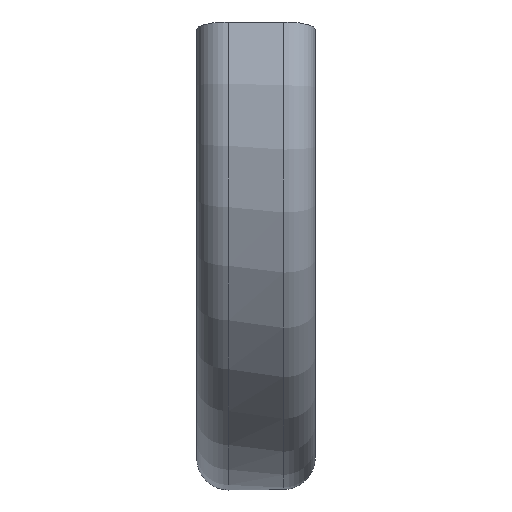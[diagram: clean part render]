
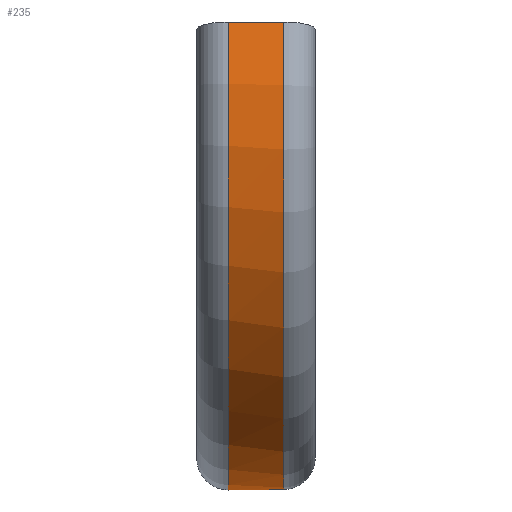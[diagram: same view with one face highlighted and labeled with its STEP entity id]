
A CAD part, left-side view. The second image highlights one B-rep face of the part: STEP entity #235.
In plain terms, the highlighted cylindrical face has radius 96.341 mm (diameter 192.683 mm), a partial arc.
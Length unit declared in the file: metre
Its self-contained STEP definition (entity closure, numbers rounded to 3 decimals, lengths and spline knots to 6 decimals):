
#7 = CARTESIAN_POINT ( 'NONE',  ( 0.084397, -0.007, -0.002342 ) ) ;
#102 = CARTESIAN_POINT ( 'NONE',  ( 0.084397, 0.007, -0.002342 ) ) ;
#103 = DIRECTION ( 'NONE',  ( 0., 1., 0. ) ) ;
#104 = VECTOR ( 'NONE', #103, 1. ) ;
#105 = CARTESIAN_POINT ( 'NONE',  ( 0.084397, 0.015, -0.002342 ) ) ;
#110 = LINE ( 'NONE', #105, #104 ) ;
#111 = DIRECTION ( 'NONE',  ( 0., 0., 1. ) ) ;
#112 = DIRECTION ( 'NONE',  ( 0., 1., 0. ) ) ;
#113 = CARTESIAN_POINT ( 'NONE',  ( -0.010531, -0.007, -0.018788 ) ) ;
#114 = AXIS2_PLACEMENT_3D ( 'NONE', #113, #112, #111 ) ;
#115 = CIRCLE ( 'NONE', #114, 0.096342 ) ;
#118 = EDGE_CURVE ( 'NONE', #175, #196, #284, .T. ) ;
#175 = VERTEX_POINT ( 'NONE', #437 ) ;
#193 = VERTEX_POINT ( 'NONE', #596 ) ;
#195 = EDGE_CURVE ( 'NONE', #196, #193, #595, .T. ) ;
#196 = VERTEX_POINT ( 'NONE', #590 ) ;
#235 = ADVANCED_FACE ( 'NONE', ( #555 ), #548, .T. ) ;
#251 = ORIENTED_EDGE ( 'NONE', *, *, #118, .T. ) ;
#272 = ORIENTED_EDGE ( 'NONE', *, *, #195, .T. ) ;
#273 = ORIENTED_EDGE ( 'NONE', *, *, #360, .F. ) ;
#274 = ORIENTED_EDGE ( 'NONE', *, *, #333, .T. ) ;
#277 = DIRECTION ( 'NONE',  ( 0., 1., 0. ) ) ;
#278 = VECTOR ( 'NONE', #277, 1. ) ;
#283 = CARTESIAN_POINT ( 'NONE',  ( -0.104267, 0.015, 0.003465 ) ) ;
#284 = LINE ( 'NONE', #283, #278 ) ;
#321 = EDGE_LOOP ( 'NONE', ( #273, #366, #251, #272, #274 ) ) ;
#333 = EDGE_CURVE ( 'NONE', #193, #365, #627, .T. ) ;
#355 = VERTEX_POINT ( 'NONE', #7 ) ;
#356 = EDGE_CURVE ( 'NONE', #355, #175, #115, .T. ) ;
#360 = EDGE_CURVE ( 'NONE', #355, #365, #110, .T. ) ;
#365 = VERTEX_POINT ( 'NONE', #102 ) ;
#366 = ORIENTED_EDGE ( 'NONE', *, *, #356, .T. ) ;
#437 = CARTESIAN_POINT ( 'NONE',  ( -0.104267, -0.007, 0.003465 ) ) ;
#545 = DIRECTION ( 'NONE',  ( 0., 0., 1. ) ) ;
#546 = DIRECTION ( 'NONE',  ( 0., 1., 0. ) ) ;
#547 = AXIS2_PLACEMENT_3D ( 'NONE', #549, #546, #545 ) ;
#548 = CYLINDRICAL_SURFACE ( 'NONE', #547, 0.096342 ) ;
#549 = CARTESIAN_POINT ( 'NONE',  ( -0.010531, 0., -0.018788 ) ) ;
#555 = FACE_OUTER_BOUND ( 'NONE', #321, .T. ) ;
#590 = CARTESIAN_POINT ( 'NONE',  ( -0.104267, 0.007, 0.003465 ) ) ;
#591 = DIRECTION ( 'NONE',  ( 0., 0., -1. ) ) ;
#592 = DIRECTION ( 'NONE',  ( 0., -1., 0. ) ) ;
#593 = CARTESIAN_POINT ( 'NONE',  ( -0.010531, 0.007, -0.018788 ) ) ;
#594 = AXIS2_PLACEMENT_3D ( 'NONE', #593, #592, #591 ) ;
#595 = CIRCLE ( 'NONE', #594, 0.096342 ) ;
#596 = CARTESIAN_POINT ( 'NONE',  ( -0.010531, 0.007, -0.11513 ) ) ;
#623 = DIRECTION ( 'NONE',  ( 0., 0., -1. ) ) ;
#624 = DIRECTION ( 'NONE',  ( 0., -1., 0. ) ) ;
#625 = CARTESIAN_POINT ( 'NONE',  ( -0.010531, 0.007, -0.018788 ) ) ;
#626 = AXIS2_PLACEMENT_3D ( 'NONE', #625, #624, #623 ) ;
#627 = CIRCLE ( 'NONE', #626, 0.096342 ) ;
